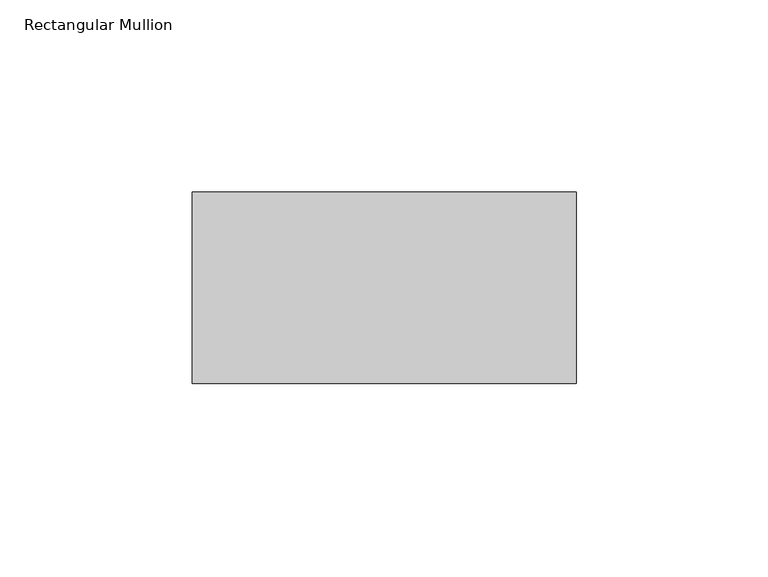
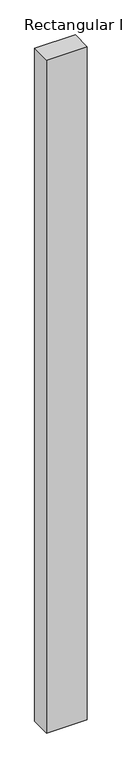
"""IFC4 building model written with IfcOpenShell, lengths in millimetres: member geometry, Rectangular Mullion : Mullion_Curtain Wall_Generic Showcase_50x100mm."""

from ifc_helpers import new_model, si_unit, frame, origin, place, context, project, spatial, polyline, outline, extrude, source, transform, mapped, element, save


def rectangular_mullion_eea76750(model_context):
    return source(origin(), model_context, "Body", "SweptSolid", [
        extrude(outline(polyline([(0.0, 0.0), (0.0, -50.0), (-100.0, -50.0), (-100.0, 0.0), (0.0, 0.0)])), frame((0.0, 0.0, -1751.9795478), z_axis=(0.0, 0.0, 1.0), x_axis=(1.0, 0.0, 0.0)), (0.0, 0.0, 1.0), 1751.9795478),
    ])


if __name__ == "__main__":
    model = new_model("IFC4")
    model_context = context("Model", 3, world=origin())
    ifc_project = project(units=[si_unit("LENGTHUNIT", "METRE", prefix="MILLI")], contexts=[model_context])
    site = spatial("IfcSite", under=ifc_project)
    building = spatial("IfcBuilding", under=site)
    placement = place(None, origin())
    rectangular_mullion_shape = rectangular_mullion_eea76750(model_context)
    element("IfcMember", 1, ObjectType="Rectangular Mullion : Mullion_Curtain Wall_Generic Showcase_50x100mm", at=placement, inside=building, context=model_context, shape_type="MappedRepresentation", body=[
        mapped(rectangular_mullion_shape, transform((0.0, 0.0, 0.0), x_axis=(1.0, 0.0, 0.0), y_axis=(0.0, 1.0, 0.0), z_axis=(0.0, 0.0, 1.0))),
    ])
    save(model, "model.ifc")
